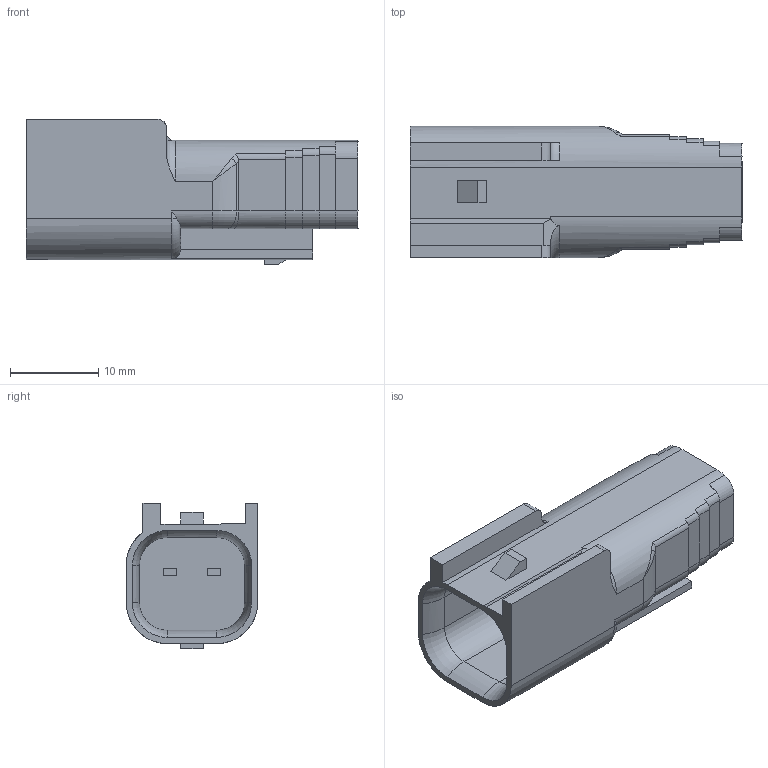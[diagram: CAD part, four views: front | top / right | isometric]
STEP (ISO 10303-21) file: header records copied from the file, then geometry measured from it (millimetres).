
FILE_DESCRIPTION(('CATIA V5 STEP Exchange','CAx-IF Rec.Pracs.--- Model Styling and Organization---1.2---2011-12-15'),'2;1');
FILE_NAME('N:\C-DAM_MyDesk\ENV\900093\6181-6492.stp','2015-08-18T01:47:40+00:00',('none'),('none'),'CATIA Version 5-6 Release 2012 SP4 HF74','CATIA V5 STEP AP214','none');
FILE_SCHEMA(('AUTOMOTIVE_DESIGN { 1 0 10303 214 1 1 1 1 }'));
Length unit declared in the file: millimetre
Products named in the file (1): 6181-6492
Bounding box: 37.6 x 14.9 x 16.5 mm (x, y, z)
Volume: 4618.8 mm3; surface area: 2998.5 mm2
Topology: 1 solids, 1 shells, 133 faces, 356 edges, 230 vertices
Faces by surface type: plane 73, cylinder 44, torus 10, bspline 6
Entity records: 4529 total; most frequent: CARTESIAN_POINT 1390, ORIENTED_EDGE 708, DIRECTION 523, EDGE_CURVE 354, VERTEX_POINT 230, VECTOR 217, LINE 217, AXIS2_PLACEMENT_3D 192
